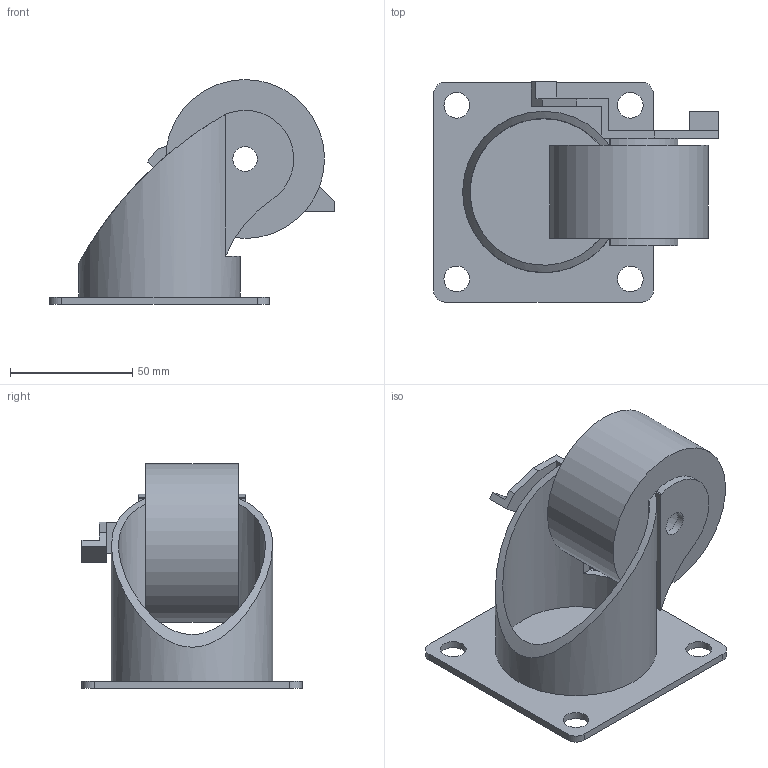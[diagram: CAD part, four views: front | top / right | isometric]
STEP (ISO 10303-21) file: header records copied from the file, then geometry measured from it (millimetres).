
FILE_DESCRIPTION((''),'2;1');
FILE_NAME('E:\catalogue and flyer\Profile catalogue 2015\Accessories- FM & wheel\foot mout & wheel stp file\ACC-JMS65-HP.stp','2016-04-08T10:52:27',('h029'),(''),'Autodesk Inventor 11','Autodesk Inventor 11','');
FILE_SCHEMA(('AUTOMOTIVE_DESIGN { 1 0 10303 214 1 1 1 1 }'));
Length unit declared in the file: millimetre
Products named in the file (5): JMS65-HP; plate; Part3; wheel; wheel brake
Assembly tree (4 placements, depth 2):
  JMS65-HP
    plate
    Part3
    wheel
    wheel brake
Bounding box: 116.58 x 90 x 91.99 mm (x, y, z)
Volume: 163534.5 mm3; surface area: 58993.6 mm2
Topology: 6 solids, 6 shells, 64 faces, 167 edges, 110 vertices
Faces by surface type: plane 40, cylinder 12, bspline 12
Full cylindrical faces by diameter (mm): 10 x1, 25 x1, 60 x1, 65 x1, 66 x1
Entity records: 2277 total; most frequent: CARTESIAN_POINT 661, DIRECTION 305, ORIENTED_EDGE 294, EDGE_CURVE 147, VECTOR 103, LINE 103, AXIS2_PLACEMENT_3D 101, VERTEX_POINT 101
